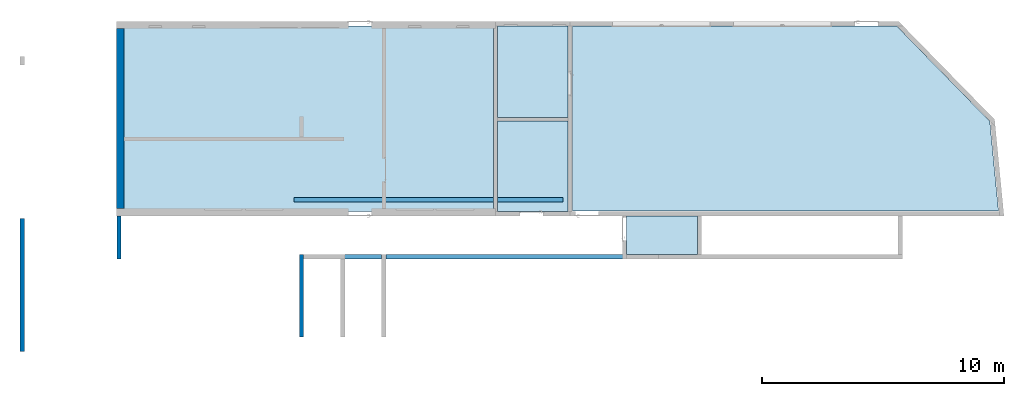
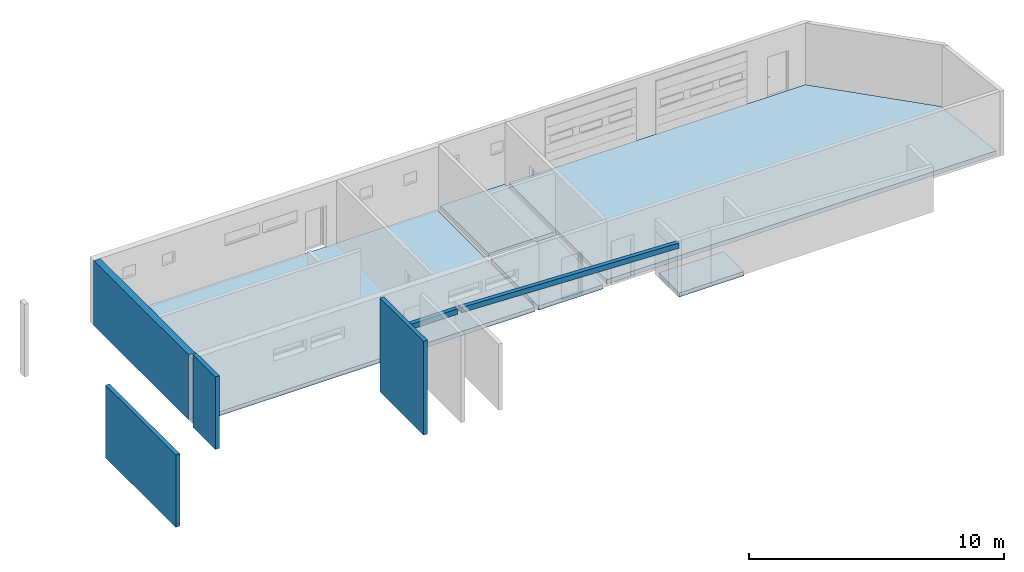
# One storey, part 1 of 9: 5 slabs, 4 walls, 3 beams.
"""IFC2X3 building model written with IfcOpenShell, lengths in metres."""

from ifc_helpers import new_model, entity, si_unit, converted_unit, derived_unit, direction, frame, frame_2d, origin, place, context, subcontext, project, spatial, polyline, rectangle, outline, extrude, clip, halfspace, bounded_halfspace, faceted_brep, material, layer, layer_set, layer_usage, type_object, element, save


model = new_model("IFC2X3")

# Units and contexts
model_context = context("Model", 3, precision=1e-05, world=origin(), true_north=direction((6.12303176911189e-17, 1.0)))
body_context = subcontext(model_context, "Body", "Model", "MODEL_VIEW")
ifc_project = project(units=[si_unit("LENGTHUNIT", "METRE"), si_unit("AREAUNIT", "SQUARE_METRE"), si_unit("VOLUMEUNIT", "CUBIC_METRE"), converted_unit("PLANEANGLEUNIT", "DEGREE", entity("IfcRatioMeasure", 0.0174532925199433), si_unit("PLANEANGLEUNIT", "RADIAN"), dimensions=[0, 0, 0, 0, 0, 0, 0]), si_unit("MASSUNIT", "GRAM", prefix="KILO"), derived_unit("MASSDENSITYUNIT", [(si_unit("MASSUNIT", "GRAM", prefix="KILO"), 1), (si_unit("LENGTHUNIT", "METRE"), -3)]), si_unit("TIMEUNIT", "SECOND"), si_unit("FREQUENCYUNIT", "HERTZ"), si_unit("THERMODYNAMICTEMPERATUREUNIT", "DEGREE_CELSIUS"), derived_unit("THERMALTRANSMITTANCEUNIT", [(si_unit("MASSUNIT", "GRAM", prefix="KILO"), 1), (si_unit("THERMODYNAMICTEMPERATUREUNIT", "KELVIN"), -1), (si_unit("TIMEUNIT", "SECOND"), -3)]), derived_unit("VOLUMETRICFLOWRATEUNIT", [(si_unit("LENGTHUNIT", "METRE"), 3), (si_unit("TIMEUNIT", "SECOND"), -1)]), si_unit("ELECTRICCURRENTUNIT", "AMPERE"), si_unit("ELECTRICVOLTAGEUNIT", "VOLT"), si_unit("POWERUNIT", "WATT"), si_unit("FORCEUNIT", "NEWTON", prefix="KILO"), si_unit("ILLUMINANCEUNIT", "LUX"), si_unit("LUMINOUSFLUXUNIT", "LUMEN"), si_unit("LUMINOUSINTENSITYUNIT", "CANDELA"), derived_unit("USERDEFINED", [(si_unit("MASSUNIT", "GRAM", prefix="KILO"), -1), (si_unit("LENGTHUNIT", "METRE"), -2), (si_unit("TIMEUNIT", "SECOND"), 3), (si_unit("LUMINOUSFLUXUNIT", "LUMEN"), 1)]), derived_unit("LINEARVELOCITYUNIT", [(si_unit("LENGTHUNIT", "METRE"), 1), (si_unit("TIMEUNIT", "SECOND"), -1)]), si_unit("PRESSUREUNIT", "PASCAL"), derived_unit("USERDEFINED", [(si_unit("LENGTHUNIT", "METRE"), -2), (si_unit("MASSUNIT", "GRAM", prefix="KILO"), 1), (si_unit("TIMEUNIT", "SECOND"), -2)])], contexts=[model_context])

# Site, building, storey
site_placement = place(None, origin())
site = spatial("IfcSite", under=ifc_project, at=site_placement, Name="Default", CompositionType="ELEMENT")
building_placement = place(site_placement, origin())
building = spatial("IfcBuilding", under=site, at=building_placement, CompositionType="ELEMENT")
storey_placement = place(building_placement, origin())
storey = spatial("IfcBuildingStorey", under=building, at=storey_placement, Name="Niveau 0", CompositionType="ELEMENT", Elevation=-1.94916083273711e-14)

# Beams
ifc_material_1 = material(Name="Béton - Béton coulé sur place")
beam_type = type_object("IfcBeamType", Name="Poutre rectangulaire - Béton:180 x 250 mm", PredefinedType="BEAM")
beam_1_placement = place(storey_placement, frame((-5.04342939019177, -4.445860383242, -0.250000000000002), z_axis=(0.0, 0.0, 1.0), x_axis=(-1.0, 0.0, 0.0)))
element("IfcBeam", 1, at=beam_1_placement, inside=storey, type_object=beam_type, material=ifc_material_1, Name="Poutre rectangulaire - Béton:180 x 250 mm", ObjectType="Poutre rectangulaire - Béton:180 x 250 mm", context=body_context, shape_type="Brep", body=[
    faceted_brep([(0.0, -0.180000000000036, 0.0), (0.0, 0.0, 0.0), (0.0, 0.0, 0.0500000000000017), (0.0, -0.180000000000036, 0.0500000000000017), (-11.1254, 0.0, 0.0), (-11.1254, -0.180000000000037, 0.0), (-11.1254, -0.180000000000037, 0.0500000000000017), (-11.1254, 0.0, 0.0500000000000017), (-8.24396802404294, -0.180000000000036, 0.0500000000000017), (-8.24396802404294, -0.180000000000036, 0.25), (-8.40396802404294, -0.180000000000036, 0.25), (-8.40396802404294, -0.180000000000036, 0.0500000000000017), (-8.40396802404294, 0.0, 0.0500000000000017), (-8.40396802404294, 0.0, 0.25), (-8.24396802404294, 0.0, 0.25), (-8.24396802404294, 0.0, 0.0500000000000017)], [[[0, 1, 2, 3]], [[4, 5, 6, 7]], [[5, 0, 3, 8, 9, 10, 11, 6]], [[1, 0, 5, 4]], [[1, 4, 7, 12, 13, 14, 15, 2]], [[9, 14, 13, 10]], [[15, 8, 3, 2]], [[8, 15, 14, 9]], [[11, 12, 7, 6]], [[12, 11, 10, 13]]]),
])
beam_2_placement = place(storey_placement, frame((8.4907954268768, -6.7116802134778, 0.0), z_axis=(0.0359130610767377, 0.0, 0.999354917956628), x_axis=(-0.999354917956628, 0.0, 0.0359130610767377)))
element("IfcBeam", 2, at=beam_2_placement, inside=storey, type_object=beam_type, material=ifc_material_1, Name="Poutre rectangulaire - Béton:180 x 250 mm", ObjectType="Poutre rectangulaire - Béton:180 x 250 mm", context=body_context, shape_type="Clipping", body=[
    clip(extrude(rectangle(XDim=0.25, YDim=0.180000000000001, at=frame_2d((2.63677968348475e-16, 5.41233724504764e-16), x_axis=(1.0, 0.0))), frame((-0.0123210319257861, 0.0, 2.245), z_axis=(1.0, 0.0, 0.0), x_axis=(0.0, 0.0, -1.0)), (0.0, 0.0, 1.0), 9.84259358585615), halfspace(frame((9.72642971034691, -0.0907451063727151, -0.519641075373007), z_axis=(0.999354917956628, 0.0, -0.0359130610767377), x_axis=(0.0, -1.0, 0.0)), False)),
])
beam_3_placement = place(storey_placement, frame((-4.65072183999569, -6.80000887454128, 2.47), z_axis=(0.0, 0.0, 1.0), x_axis=(-1.0, 0.0, 0.0)))
element("IfcBeam", 3, at=beam_3_placement, inside=storey, type_object=beam_type, material=ifc_material_1, Name="Poutre rectangulaire - Béton:180 x 250 mm", ObjectType="Poutre rectangulaire - Béton:180 x 250 mm", context=body_context, shape_type="Brep", body=[
    faceted_brep([(0.0, -0.180000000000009, 0.25), (0.0, -0.180000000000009, 0.0), (0.0, -0.179127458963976, 0.0), (0.0, -0.179127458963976, 0.25), (-3.4027, -0.18000000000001, 0.25), (-3.4027, -0.18000000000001, 0.0), (-3.2227, -0.179127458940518, 0.0), (-3.2227, 0.0, 0.0), (-0.0067630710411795, 0.0, 0.0), (-0.00676307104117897, -0.179127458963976, 0.0), (-3.4027, -0.179127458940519, 0.0), (-3.2227, 0.0, 0.25), (-0.00676307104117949, 0.0, 0.25), (-3.2227, -0.179127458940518, 0.25), (-3.4027, -0.179127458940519, 0.25), (-0.0067630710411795, -0.179127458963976, 0.25)], [[[0, 1, 2, 3]], [[1, 0, 4, 5]], [[6, 7, 8, 9, 2, 1, 5, 10]], [[7, 11, 12, 8]], [[11, 13, 14, 4, 0, 3, 15, 12]], [[6, 13, 11, 7]], [[13, 6, 10, 14]], [[15, 9, 8, 12]], [[9, 15, 3, 2]], [[5, 4, 14, 10]]]),
])

# Slabs
ifc_material_2 = material(Name="Maçonnerie - Béton")
ifc_layer_1 = layer(ifc_material_2, 0.2)
ifc_layer_set_1 = layer_set([ifc_layer_1], Name="Radier:Béton - 200mm")
ifc_layer_usage_1 = layer_usage(ifc_layer_set_1, "AXIS3", "POSITIVE", 0.0)
slab_1_placement = place(storey_placement, origin())
element("IfcSlab", 4, at=slab_1_placement, inside=storey, material=ifc_layer_usage_1, Name="Radier:Béton - 200mm", ObjectType="Radier:Béton - 200mm", PredefinedType="BASESLAB", context=body_context, shape_type="SweptSolid", body=[
    extrude(rectangle(XDim=7.68000000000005, YDim=15.3944974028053, at=frame_2d((0.0, 1.33226762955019e-15), x_axis=(1.0, 0.0))), frame((-4.49671006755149, -1.01088141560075, 0.0), z_axis=(0.0, 0.0, -1.0), x_axis=(0.0, 1.0, 0.0)), (0.0, 0.0, 1.0), 0.2),
])
ifc_layer_usage_2 = layer_usage(ifc_layer_set_1, "AXIS3", "POSITIVE", 0.0)
slab_2_placement = place(storey_placement, origin())
element("IfcSlab", 5, at=slab_2_placement, inside=storey, material=ifc_layer_usage_2, Name="Radier:Béton - 200mm", ObjectType="Radier:Béton - 200mm", PredefinedType="BASESLAB", context=body_context, shape_type="SweptSolid", body=[
    extrude(rectangle(XDim=3.73645382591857, YDim=2.92, at=frame_2d((3.33066907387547e-16, -2.22044604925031e-16), x_axis=(1.0, 0.0))), frame((4.82053863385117, -2.98265450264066, 0.0), z_axis=(0.0, 0.0, -1.0), x_axis=(0.0, 1.0, 0.0)), (0.0, 0.0, 1.0), 0.2),
])
ifc_layer_usage_3 = layer_usage(ifc_layer_set_1, "AXIS3", "POSITIVE", 0.0)
slab_3_placement = place(storey_placement, origin())
element("IfcSlab", 6, at=slab_3_placement, inside=storey, material=ifc_layer_usage_3, Name="Radier:Béton - 200mm", ObjectType="Radier:Béton - 200mm", PredefinedType="BASESLAB", context=body_context, shape_type="SweptSolid", body=[
    extrude(rectangle(XDim=3.7835461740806, YDim=2.92, at=frame_2d((0.0, 2.22044604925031e-16), x_axis=(1.0, 0.0))), frame((4.82053863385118, 0.937345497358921, 0.15), z_axis=(0.0, 0.0, -1.0), x_axis=(0.0, 1.0, 0.0)), (0.0, 0.0, 1.0), 0.2),
])
ifc_layer_usage_4 = layer_usage(ifc_layer_set_1, "AXIS3", "POSITIVE", 0.0)
slab_4_placement = place(storey_placement, origin())
element("IfcSlab", 7, at=slab_4_placement, inside=storey, material=ifc_layer_usage_4, Name="Radier:Béton - 200mm", ObjectType="Radier:Béton - 200mm", PredefinedType="BASESLAB", context=body_context, shape_type="SweptSolid", body=[
    extrude(outline(polyline([(-3.80028229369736, -9.65606610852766), (3.84916939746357, -9.65606610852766), (3.84916939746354, 3.74458910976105), (-0.097774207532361, 7.60360921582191), (-3.80028229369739, 7.96393389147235), (-3.80028229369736, -9.65606610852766)])), frame((16.1165508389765, -1.02005081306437, 0.15), z_axis=(0.0, 0.0, -1.0), x_axis=(0.0, 1.0, 0.0)), (0.0, 0.0, 1.0), 0.2),
])
ifc_layer_usage_5 = layer_usage(ifc_layer_set_1, "AXIS3", "POSITIVE", 0.0)
slab_5_placement = place(storey_placement, origin())
element("IfcSlab", 8, at=slab_5_placement, inside=storey, material=ifc_layer_usage_5, Name="Radier:Béton - 200mm", ObjectType="Radier:Béton - 200mm", PredefinedType="BASESLAB", context=body_context, shape_type="SweptSolid", body=[
    extrude(rectangle(XDim=1.58999999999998, YDim=2.92000000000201, at=frame_2d((2.49245069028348e-14, -1.11022302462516e-15), x_axis=(1.0, 0.0))), frame((10.1660412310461, -5.82588141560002, -0.17), z_axis=(0.0, 0.0, -1.0), x_axis=(0.0, 1.0, 0.0)), (0.0, 0.0, 1.0), 0.2),
])

# Walls
ifc_material_3 = material(Name="Maçonnerie - Voile BA")
ifc_layer_2 = layer(ifc_material_3, 0.18)
ifc_material_4 = material(Name="Maçonnerie - Isolant")
ifc_layer_3 = layer(ifc_material_4, 0.12)
ifc_layer_set_2 = layer_set([ifc_layer_2, ifc_layer_3], Name="Mur de base:Ext. Voile BA 18 + Isolant 12")
ifc_layer_usage_6 = layer_usage(ifc_layer_set_2, "AXIS2", "NEGATIVE", 0.15)
wall_type_1 = type_object("IfcWallType", Name="Mur de base:Ext. Voile BA 18 + Isolant 12", PredefinedType="STANDARD", material=ifc_layer_set_2)
wall_1_placement = place(storey_placement, frame((-12.2339657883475, -4.73088141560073, 0.0), z_axis=(0.0, 0.0, 1.0), x_axis=(0.0, 1.0, 0.0)))
element("IfcWallStandardCase", 9, at=wall_1_placement, inside=storey, type_object=wall_type_1, material=ifc_layer_usage_6, Name="Mur de base:Ext. Voile BA 18 + Isolant 12", ObjectType="Mur de base:Ext. Voile BA 18 + Isolant 12", context=body_context, shape_type="Clipping", body=[
    clip(extrude(rectangle(XDim=7.44, YDim=0.300000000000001, at=frame_2d((3.72, -4.85722573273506e-16), x_axis=(-1.0, 0.0))), origin(), (0.0, 0.0, 1.0), 3.10000000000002), bounded_halfspace(frame((0.0, -0.149999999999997, 3.10000000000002), z_axis=(0.0, 0.0, -1.0), x_axis=(0.0, -1.0, 0.0)), True, frame((0.0, -0.149999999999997, 3.10000000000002)), polyline([(0.0, 0.0), (2.79000000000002, 0.0), (2.97000000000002, 0.0), (7.44, 0.0), (7.44, 0.299999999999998), (0.0, 0.299999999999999), (0.0, 0.0)]))),
])
ifc_layer_4 = layer(ifc_material_3, 0.18)
ifc_layer_set_3 = layer_set([ifc_layer_4], Name="Mur de base:Ext. Voile BA 18")
ifc_layer_usage_7 = layer_usage(ifc_layer_set_3, "AXIS2", "NEGATIVE", 0.09)
wall_type_2 = type_object("IfcWallType", Name="Mur de base:Ext. Voile BA 18", PredefinedType="NOTDEFINED")
wall_2_placement = place(storey_placement, frame((-4.73395876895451, -6.6208814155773, -0.17), z_axis=(0.0, 0.0, 1.0), x_axis=(0.0, -1.0, 0.0)))
element("IfcWallStandardCase", 10, at=wall_2_placement, inside=storey, type_object=wall_type_2, material=ifc_layer_usage_7, Name="Mur de base:Ext. Voile BA 18", ObjectType="Mur de base:Ext. Voile BA 18", context=body_context, shape_type="SweptSolid", body=[
    extrude(rectangle(XDim=3.40989261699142, YDim=0.18, at=frame_2d((1.70494630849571, 5.55111512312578e-17), x_axis=(-1.0, 0.0))), origin(), (0.0, 0.0, 1.0), 4.49),
])
ifc_layer_usage_8 = layer_usage(ifc_layer_set_3, "AXIS2", "NEGATIVE", 0.09)
wall_3_placement = place(storey_placement, frame((-12.2839587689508, -5.03088141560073, -0.17), z_axis=(0.0, 0.0, 1.0), x_axis=(0.0, -1.0, 0.0)))
element("IfcWallStandardCase", 11, at=wall_3_placement, inside=storey, type_object=wall_type_2, material=ifc_layer_usage_8, Name="Mur de base:Ext. Voile BA 18", ObjectType="Mur de base:Ext. Voile BA 18", context=body_context, shape_type="SweptSolid", body=[
    extrude(rectangle(XDim=1.76999999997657, YDim=0.179999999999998, at=frame_2d((0.884999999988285, 0.0), x_axis=(-1.0, 0.0))), origin(), (0.0, 0.0, 1.0), 3.47000000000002),
])
ifc_layer_usage_9 = layer_usage(ifc_layer_set_3, "AXIS2", "NEGATIVE", 0.09)
wall_4_placement = place(storey_placement, frame((-16.2839587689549, -5.13088141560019, -0.17), z_axis=(0.0, 0.0, 1.0), x_axis=(0.0, -1.0, 0.0)))
element("IfcWallStandardCase", 12, at=wall_4_placement, inside=storey, type_object=wall_type_2, material=ifc_layer_usage_9, Name="Mur de base:Ext. Voile BA 18", ObjectType="Mur de base:Ext. Voile BA 18", context=body_context, shape_type="SweptSolid", body=[
    extrude(rectangle(XDim=5.5000000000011, YDim=0.179999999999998, at=frame_2d((2.75000000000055, 0.0), x_axis=(-1.0, 0.0))), origin(), (0.0, 0.0, 1.0), 3.47000000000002),
])

save(model, "model.ifc")
